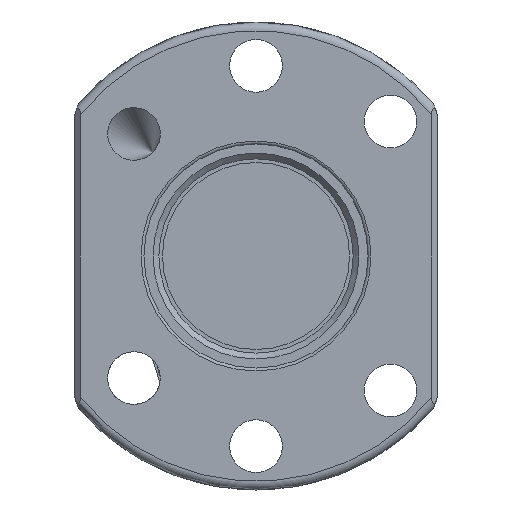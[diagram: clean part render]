
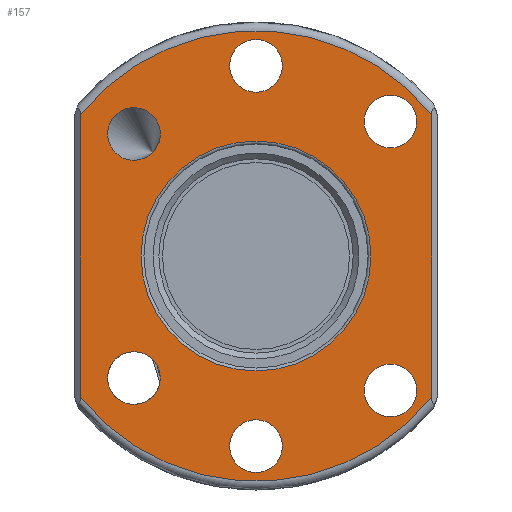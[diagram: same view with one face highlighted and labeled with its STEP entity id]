
A CAD part, front view. The second image highlights one B-rep face of the part: STEP entity #157.
In plain terms, the highlighted planar face has unit normal (0, -1, 0) by its records, which use the part's own axes.
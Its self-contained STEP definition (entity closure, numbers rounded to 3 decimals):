
#50=LINE('',#953,#74);
#51=LINE('',#957,#75);
#74=VECTOR('',#782,1.);
#75=VECTOR('',#785,1.);
#120=PLANE('',#677);
#157=ADVANCED_FACE('',(#214,#215,#216,#217,#218,#219,#220,#221),#120,.T.);
#214=FACE_BOUND('',#268,.T.);
#215=FACE_BOUND('',#269,.T.);
#216=FACE_BOUND('',#270,.T.);
#217=FACE_BOUND('',#271,.T.);
#218=FACE_BOUND('',#272,.T.);
#219=FACE_BOUND('',#273,.T.);
#220=FACE_BOUND('',#274,.T.);
#221=FACE_BOUND('',#275,.T.);
#268=EDGE_LOOP('',(#344));
#269=EDGE_LOOP('',(#345));
#270=EDGE_LOOP('',(#346));
#271=EDGE_LOOP('',(#347));
#272=EDGE_LOOP('',(#348));
#273=EDGE_LOOP('',(#349));
#274=EDGE_LOOP('',(#350));
#275=EDGE_LOOP('',(#351,#352,#353,#354));
#344=ORIENTED_EDGE('',*,*,#552,.T.);
#345=ORIENTED_EDGE('',*,*,#553,.T.);
#346=ORIENTED_EDGE('',*,*,#554,.F.);
#347=ORIENTED_EDGE('',*,*,#555,.F.);
#348=ORIENTED_EDGE('',*,*,#556,.T.);
#349=ORIENTED_EDGE('',*,*,#557,.T.);
#350=ORIENTED_EDGE('',*,*,#558,.F.);
#351=ORIENTED_EDGE('',*,*,#559,.T.);
#352=ORIENTED_EDGE('',*,*,#560,.T.);
#353=ORIENTED_EDGE('',*,*,#561,.T.);
#354=ORIENTED_EDGE('',*,*,#562,.T.);
#492=VERTEX_POINT('',#937);
#493=VERTEX_POINT('',#939);
#494=VERTEX_POINT('',#941);
#495=VERTEX_POINT('',#943);
#496=VERTEX_POINT('',#945);
#497=VERTEX_POINT('',#947);
#498=VERTEX_POINT('',#949);
#499=VERTEX_POINT('',#951);
#500=VERTEX_POINT('',#952);
#501=VERTEX_POINT('',#954);
#502=VERTEX_POINT('',#956);
#552=EDGE_CURVE('',#492,#492,#626,.T.);
#553=EDGE_CURVE('',#493,#493,#627,.T.);
#554=EDGE_CURVE('',#494,#494,#628,.T.);
#555=EDGE_CURVE('',#495,#495,#629,.T.);
#556=EDGE_CURVE('',#496,#496,#630,.T.);
#557=EDGE_CURVE('',#497,#497,#631,.T.);
#558=EDGE_CURVE('',#498,#498,#632,.T.);
#559=EDGE_CURVE('',#499,#500,#633,.T.);
#560=EDGE_CURVE('',#500,#501,#50,.T.);
#561=EDGE_CURVE('',#501,#502,#634,.T.);
#562=EDGE_CURVE('',#502,#499,#51,.T.);
#626=CIRCLE('',#668,19.65);
#627=CIRCLE('',#669,4.5);
#628=CIRCLE('',#670,4.5);
#629=CIRCLE('',#671,4.5);
#630=CIRCLE('',#672,4.5);
#631=CIRCLE('',#673,4.5);
#632=CIRCLE('',#674,4.5);
#633=CIRCLE('',#675,38.5);
#634=CIRCLE('',#676,38.5);
#668=AXIS2_PLACEMENT_3D('',#936,#766,#767);
#669=AXIS2_PLACEMENT_3D('',#938,#768,#769);
#670=AXIS2_PLACEMENT_3D('',#940,#770,#771);
#671=AXIS2_PLACEMENT_3D('',#942,#772,#773);
#672=AXIS2_PLACEMENT_3D('',#944,#774,#775);
#673=AXIS2_PLACEMENT_3D('',#946,#776,#777);
#674=AXIS2_PLACEMENT_3D('',#948,#778,#779);
#675=AXIS2_PLACEMENT_3D('',#950,#780,#781);
#676=AXIS2_PLACEMENT_3D('',#955,#783,#784);
#677=AXIS2_PLACEMENT_3D('',#958,#786,#787);
#766=DIRECTION('',(0.,1.,0.));
#767=DIRECTION('',(0.,0.,-1.));
#768=DIRECTION('',(0.,1.,0.));
#769=DIRECTION('',(1.,0.,0.));
#770=DIRECTION('',(0.,-1.,0.));
#771=DIRECTION('',(1.,0.,0.));
#772=DIRECTION('',(0.,-1.,0.));
#773=DIRECTION('',(1.,0.,0.));
#774=DIRECTION('',(0.,1.,0.));
#775=DIRECTION('',(1.,0.,0.));
#776=DIRECTION('',(0.,1.,0.));
#777=DIRECTION('',(1.,0.,0.));
#778=DIRECTION('',(0.,-1.,0.));
#779=DIRECTION('',(1.,0.,0.));
#780=DIRECTION('',(0.,-1.,0.));
#781=DIRECTION('',(0.,0.,-1.));
#782=DIRECTION('',(0.,0.,-1.));
#783=DIRECTION('',(0.,-1.,0.));
#784=DIRECTION('',(0.,0.,-1.));
#785=DIRECTION('',(0.,0.,1.));
#786=DIRECTION('',(0.,-1.,0.));
#787=DIRECTION('',(0.,0.,-1.));
#936=CARTESIAN_POINT('',(0.,0.,0.));
#937=CARTESIAN_POINT('',(0.,0.,-19.65));
#938=CARTESIAN_POINT('',(-20.86,0.,-20.86));
#939=CARTESIAN_POINT('',(-16.36,0.,-20.86));
#940=CARTESIAN_POINT('',(22.981,0.,22.981));
#941=CARTESIAN_POINT('',(27.481,0.,22.981));
#942=CARTESIAN_POINT('',(-20.86,0.,20.86));
#943=CARTESIAN_POINT('',(-16.36,0.,20.86));
#944=CARTESIAN_POINT('',(0.,0.,-32.5));
#945=CARTESIAN_POINT('',(4.5,0.,-32.5));
#946=CARTESIAN_POINT('',(22.981,0.,-22.981));
#947=CARTESIAN_POINT('',(27.481,0.,-22.981));
#948=CARTESIAN_POINT('',(0.,0.,32.5));
#949=CARTESIAN_POINT('',(4.5,0.,32.5));
#950=CARTESIAN_POINT('',(0.,0.,0.));
#951=CARTESIAN_POINT('',(30.,0.,24.13));
#952=CARTESIAN_POINT('',(-30.,0.,24.13));
#953=CARTESIAN_POINT('',(-30.,0.,-22.831));
#954=CARTESIAN_POINT('',(-30.,0.,-24.13));
#955=CARTESIAN_POINT('',(0.,0.,0.));
#956=CARTESIAN_POINT('',(30.,0.,-24.13));
#957=CARTESIAN_POINT('',(30.,0.,0.));
#958=CARTESIAN_POINT('',(0.,0.,0.));
